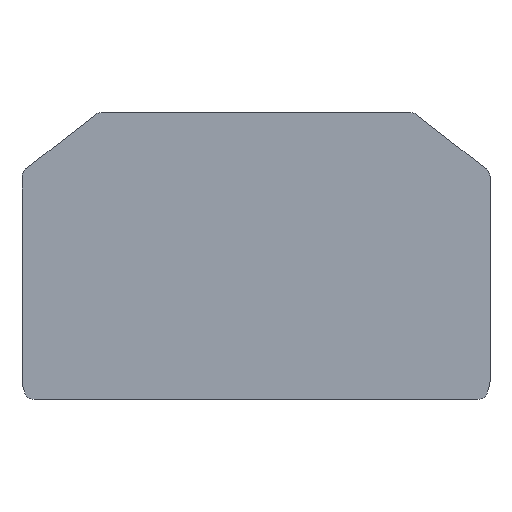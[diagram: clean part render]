
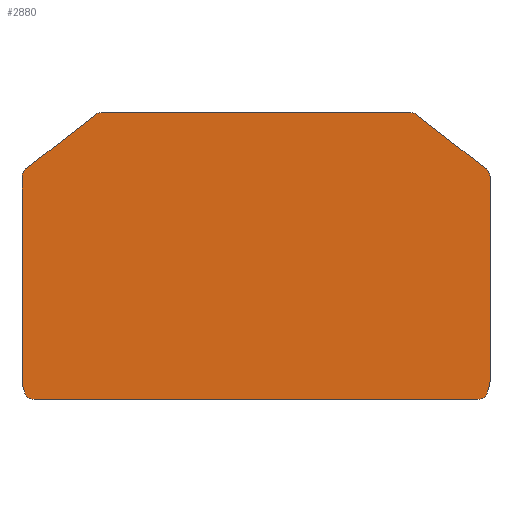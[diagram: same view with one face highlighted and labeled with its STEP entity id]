
A CAD part, top view. The second image highlights one B-rep face of the part: STEP entity #2880.
In plain terms, the highlighted planar face has unit normal (0, 0, 1).
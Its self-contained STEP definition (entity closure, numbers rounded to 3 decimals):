
#1450=CARTESIAN_POINT('',(0.,0.,1.));
#1460=DIRECTION('',(0.,0.,1.));
#1470=DIRECTION('',(1.,0.,0.));
#1480=AXIS2_PLACEMENT_3D('',#1450,#1460,#1470);
#1490=PLANE('',#1480);
#1500=CARTESIAN_POINT('',(68.518,57.093,1.));
#1510=DIRECTION('',(0.,0.,1.));
#1520=DIRECTION('',(1.,0.,0.));
#1530=AXIS2_PLACEMENT_3D('',#1500,#1510,#1520);
#1540=CIRCLE('',#1530,1.);
#1550=CARTESIAN_POINT('',(67.903,57.881,1.));
#1560=VERTEX_POINT('',#1550);
#1570=CARTESIAN_POINT('',(67.518,57.093,1.));
#1580=VERTEX_POINT('',#1570);
#1590=EDGE_CURVE('',#1560,#1580,#1540,.T.);
#1600=ORIENTED_EDGE('',*,*,#1590,.T.);
#1610=CARTESIAN_POINT('',(67.903,57.881,1.));
#1620=DIRECTION('',(0.788,0.616,0.));
#1630=VECTOR('',#1620,1.);
#1640=LINE('',#1610,#1630);
#1650=CARTESIAN_POINT('',(74.747,63.229,1.));
#1660=VERTEX_POINT('',#1650);
#1670=EDGE_CURVE('',#1560,#1660,#1640,.T.);
#1680=ORIENTED_EDGE('',*,*,#1670,.F.);
#1690=CARTESIAN_POINT('',(75.363,62.441,1.));
#1700=DIRECTION('',(0.,0.,1.));
#1710=DIRECTION('',(1.,0.,0.));
#1720=AXIS2_PLACEMENT_3D('',#1690,#1700,#1710);
#1730=CIRCLE('',#1720,1.);
#1740=CARTESIAN_POINT('',(75.363,63.441,1.));
#1750=VERTEX_POINT('',#1740);
#1760=EDGE_CURVE('',#1750,#1660,#1730,.T.);
#1770=ORIENTED_EDGE('',*,*,#1760,.T.);
#1780=CARTESIAN_POINT('',(75.363,63.441,1.));
#1790=DIRECTION('',(1.,0.,0.));
#1800=VECTOR('',#1790,1.);
#1810=LINE('',#1780,#1800);
#1820=CARTESIAN_POINT('',(105.874,63.441,1.));
#1830=VERTEX_POINT('',#1820);
#1840=EDGE_CURVE('',#1750,#1830,#1810,.T.);
#1850=ORIENTED_EDGE('',*,*,#1840,.F.);
#1860=CARTESIAN_POINT('',(105.874,62.441,1.));
#1870=DIRECTION('',(0.,0.,1.));
#1880=DIRECTION('',(1.,0.,0.));
#1890=AXIS2_PLACEMENT_3D('',#1860,#1870,#1880);
#1900=CIRCLE('',#1890,1.);
#1910=CARTESIAN_POINT('',(106.49,63.229,1.));
#1920=VERTEX_POINT('',#1910);
#1930=EDGE_CURVE('',#1920,#1830,#1900,.T.);
#1940=ORIENTED_EDGE('',*,*,#1930,.T.);
#1950=CARTESIAN_POINT('',(113.334,57.881,1.));
#1960=DIRECTION('',(-0.788,0.616,0.));
#1970=VECTOR('',#1960,1.);
#1980=LINE('',#1950,#1970);
#1990=CARTESIAN_POINT('',(113.334,57.881,1.));
#2000=VERTEX_POINT('',#1990);
#2010=EDGE_CURVE('',#2000,#1920,#1980,.T.);
#2020=ORIENTED_EDGE('',*,*,#2010,.T.);
#2030=CARTESIAN_POINT('',(112.718,57.093,1.));
#2040=DIRECTION('',(0.,0.,1.));
#2050=DIRECTION('',(1.,0.,0.));
#2060=AXIS2_PLACEMENT_3D('',#2030,#2040,#2050);
#2070=CIRCLE('',#2060,1.);
#2080=CARTESIAN_POINT('',(113.718,57.093,1.));
#2090=VERTEX_POINT('',#2080);
#2100=EDGE_CURVE('',#2090,#2000,#2070,.T.);
#2110=ORIENTED_EDGE('',*,*,#2100,.T.);
#2120=CARTESIAN_POINT('',(113.718,57.093,1.));
#2130=DIRECTION('',(0.,-1.,0.));
#2140=VECTOR('',#2130,1.);
#2150=LINE('',#2120,#2140);
#2160=CARTESIAN_POINT('',(113.718,36.872,1.));
#2170=VERTEX_POINT('',#2160);
#2180=EDGE_CURVE('',#2090,#2170,#2150,.T.);
#2190=ORIENTED_EDGE('',*,*,#2180,.F.);
#2200=CARTESIAN_POINT('',(112.718,36.872,1.));
#2210=DIRECTION('',(0.,0.,1.));
#2220=DIRECTION('',(1.,0.,0.));
#2230=AXIS2_PLACEMENT_3D('',#2200,#2210,#2220);
#2240=CIRCLE('',#2230,1.);
#2250=CARTESIAN_POINT('',(113.684,36.614,1.));
#2260=VERTEX_POINT('',#2250);
#2270=EDGE_CURVE('',#2260,#2170,#2240,.T.);
#2280=ORIENTED_EDGE('',*,*,#2270,.T.);
#2290=CARTESIAN_POINT('',(113.488,35.882,1.));
#2300=DIRECTION('',(0.259,0.966,0.));
#2310=VECTOR('',#2300,1.);
#2320=LINE('',#2290,#2310);
#2330=CARTESIAN_POINT('',(113.488,35.882,1.));
#2340=VERTEX_POINT('',#2330);
#2350=EDGE_CURVE('',#2340,#2260,#2320,.T.);
#2360=ORIENTED_EDGE('',*,*,#2350,.T.);
#2370=CARTESIAN_POINT('',(112.522,36.141,1.));
#2380=DIRECTION('',(0.,0.,1.));
#2390=DIRECTION('',(1.,0.,0.));
#2400=AXIS2_PLACEMENT_3D('',#2370,#2380,#2390);
#2410=CIRCLE('',#2400,1.);
#2420=CARTESIAN_POINT('',(112.522,35.141,1.));
#2430=VERTEX_POINT('',#2420);
#2440=EDGE_CURVE('',#2430,#2340,#2410,.T.);
#2450=ORIENTED_EDGE('',*,*,#2440,.T.);
#2460=CARTESIAN_POINT('',(112.522,35.141,1.));
#2470=DIRECTION('',(-1.,0.,0.));
#2480=VECTOR('',#2470,1.);
#2490=LINE('',#2460,#2480);
#2500=CARTESIAN_POINT('',(68.714,35.141,1.));
#2510=VERTEX_POINT('',#2500);
#2520=EDGE_CURVE('',#2430,#2510,#2490,.T.);
#2530=ORIENTED_EDGE('',*,*,#2520,.F.);
#2540=CARTESIAN_POINT('',(68.714,36.141,1.));
#2550=DIRECTION('',(0.,0.,1.));
#2560=DIRECTION('',(1.,0.,0.));
#2570=AXIS2_PLACEMENT_3D('',#2540,#2550,#2560);
#2580=CIRCLE('',#2570,1.);
#2590=CARTESIAN_POINT('',(67.748,35.882,1.));
#2600=VERTEX_POINT('',#2590);
#2610=EDGE_CURVE('',#2600,#2510,#2580,.T.);
#2620=ORIENTED_EDGE('',*,*,#2610,.T.);
#2630=CARTESIAN_POINT('',(67.552,36.614,1.));
#2640=DIRECTION('',(0.259,-0.966,0.));
#2650=VECTOR('',#2640,1.);
#2660=LINE('',#2630,#2650);
#2670=CARTESIAN_POINT('',(67.552,36.614,1.));
#2680=VERTEX_POINT('',#2670);
#2690=EDGE_CURVE('',#2680,#2600,#2660,.T.);
#2700=ORIENTED_EDGE('',*,*,#2690,.T.);
#2710=CARTESIAN_POINT('',(68.518,36.872,1.));
#2720=DIRECTION('',(0.,0.,1.));
#2730=DIRECTION('',(1.,0.,0.));
#2740=AXIS2_PLACEMENT_3D('',#2710,#2720,#2730);
#2750=CIRCLE('',#2740,1.);
#2760=CARTESIAN_POINT('',(67.518,36.872,1.));
#2770=VERTEX_POINT('',#2760);
#2780=EDGE_CURVE('',#2770,#2680,#2750,.T.);
#2790=ORIENTED_EDGE('',*,*,#2780,.T.);
#2800=CARTESIAN_POINT('',(67.518,36.872,1.));
#2810=DIRECTION('',(0.,1.,0.));
#2820=VECTOR('',#2810,1.);
#2830=LINE('',#2800,#2820);
#2840=EDGE_CURVE('',#2770,#1580,#2830,.T.);
#2850=ORIENTED_EDGE('',*,*,#2840,.F.);
#2860=EDGE_LOOP('',(#2850,#2790,#2700,#2620,#2530,#2450,#2360,#2280,
#2190,#2110,#2020,#1940,#1850,#1770,#1680,#1600));
#2870=FACE_OUTER_BOUND('',#2860,.T.);
#2880=ADVANCED_FACE('',(#2870),#1490,.T.);
